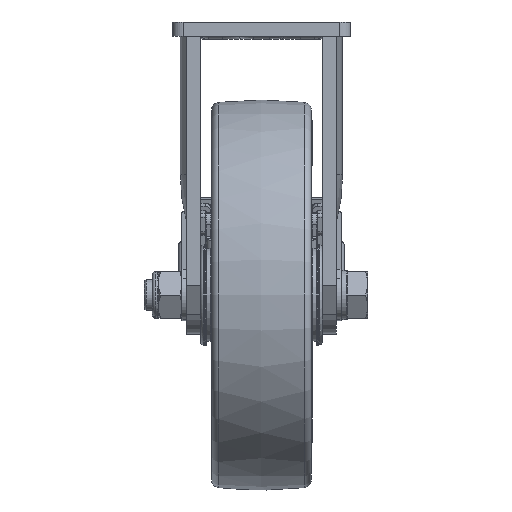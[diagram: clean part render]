
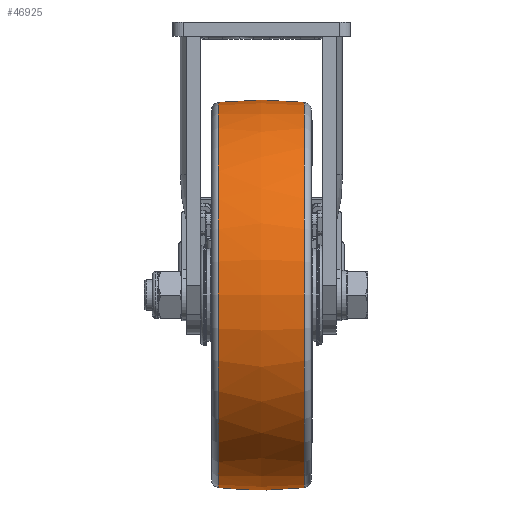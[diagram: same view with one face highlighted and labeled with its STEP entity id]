
A CAD part, left-side view. The second image highlights one B-rep face of the part: STEP entity #46925.
In plain terms, the highlighted free-form (B-spline) face has degree [2, 2] with [3, 9] control points.
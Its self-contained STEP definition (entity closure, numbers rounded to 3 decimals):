
#281=(
BOUNDED_CURVE()
B_SPLINE_CURVE(2,(#68240,#68241,#68242),.UNSPECIFIED.,.F.,.F.)
B_SPLINE_CURVE_WITH_KNOTS((3,3),(-0.11,0.11),
 .UNSPECIFIED.)
CURVE()
GEOMETRIC_REPRESENTATION_ITEM()
RATIONAL_B_SPLINE_CURVE((1.,0.994,1.))
REPRESENTATION_ITEM('')
);
#330=(
BOUNDED_SURFACE()
B_SPLINE_SURFACE(2,2,((#68209,#68210,#68211,#68212,#68213,#68214,#68215,
#68216,#68217),(#68218,#68219,#68220,#68221,#68222,#68223,#68224,#68225,
#68226),(#68227,#68228,#68229,#68230,#68231,#68232,#68233,#68234,#68235)),
 .UNSPECIFIED.,.F.,.T.,.F.)
B_SPLINE_SURFACE_WITH_KNOTS((3,3),(3,2,2,2,3),(-0.11,0.11),
(-3.142,-1.571,0.,1.571,3.142),
 .UNSPECIFIED.)
GEOMETRIC_REPRESENTATION_ITEM()
RATIONAL_B_SPLINE_SURFACE(((1.,0.707,1.,0.707,1.,
0.707,1.,0.707,1.),(0.994,0.703,
0.994,0.703,0.994,0.703,
0.994,0.703,0.994),(1.,0.707,
1.,0.707,1.,0.707,1.,0.707,1.)))
REPRESENTATION_ITEM('')
SURFACE()
);
#11620=FACE_OUTER_BOUND('',#14429,.T.);
#14429=EDGE_LOOP('',(#32281,#32282,#32283,#32284,#32285,#32286));
#17043=CIRCLE('',#49540,12.348);
#17044=CIRCLE('',#49541,12.348);
#17046=CIRCLE('',#49543,12.348);
#17047=CIRCLE('',#49544,12.348);
#19515=VERTEX_POINT('',#68203);
#19516=VERTEX_POINT('',#68204);
#19518=VERTEX_POINT('',#68236);
#19519=VERTEX_POINT('',#68237);
#24372=EDGE_CURVE('',#19515,#19516,#17043,.T.);
#24373=EDGE_CURVE('',#19516,#19515,#17044,.T.);
#24375=EDGE_CURVE('',#19518,#19519,#17046,.T.);
#24376=EDGE_CURVE('',#19519,#19518,#17047,.T.);
#24377=EDGE_CURVE('',#19519,#19516,#281,.T.);
#32281=ORIENTED_EDGE('',*,*,#24375,.F.);
#32282=ORIENTED_EDGE('',*,*,#24376,.F.);
#32283=ORIENTED_EDGE('',*,*,#24377,.T.);
#32284=ORIENTED_EDGE('',*,*,#24373,.T.);
#32285=ORIENTED_EDGE('',*,*,#24372,.T.);
#32286=ORIENTED_EDGE('',*,*,#24377,.F.);
#46925=ADVANCED_FACE('',(#11620),#330,.F.);
#49540=AXIS2_PLACEMENT_3D('',#68205,#54411,#54412);
#49541=AXIS2_PLACEMENT_3D('',#68206,#54413,#54414);
#49543=AXIS2_PLACEMENT_3D('',#68238,#54417,#54418);
#49544=AXIS2_PLACEMENT_3D('',#68239,#54419,#54420);
#54411=DIRECTION('center_axis',(0.,-1.,0.));
#54412=DIRECTION('ref_axis',(0.,0.,
1.));
#54413=DIRECTION('center_axis',(0.,-1.,0.));
#54414=DIRECTION('ref_axis',(0.,0.,
1.));
#54417=DIRECTION('center_axis',(0.,-1.,0.));
#54418=DIRECTION('ref_axis',(0.,0.,
1.));
#54419=DIRECTION('center_axis',(0.,-1.,0.));
#54420=DIRECTION('ref_axis',(0.,0.,
1.));
#68203=CARTESIAN_POINT('',(-12.348,2.755,-17.05));
#68204=CARTESIAN_POINT('',(0.,2.755,-29.398));
#68205=CARTESIAN_POINT('Origin',(0.,2.755,-17.05));
#68206=CARTESIAN_POINT('Origin',(0.,2.755,-17.05));
#68209=CARTESIAN_POINT('Ctrl Pts',(0.,2.755,
-29.398));
#68210=CARTESIAN_POINT('Ctrl Pts',(12.348,2.755,-29.398));
#68211=CARTESIAN_POINT('Ctrl Pts',(12.348,2.755,-17.05));
#68212=CARTESIAN_POINT('Ctrl Pts',(12.348,2.755,-4.702));
#68213=CARTESIAN_POINT('Ctrl Pts',(0.,2.755,
-4.702));
#68214=CARTESIAN_POINT('Ctrl Pts',(-12.348,2.755,-4.702));
#68215=CARTESIAN_POINT('Ctrl Pts',(-12.348,2.755,-17.05));
#68216=CARTESIAN_POINT('Ctrl Pts',(-12.348,2.755,-29.398));
#68217=CARTESIAN_POINT('Ctrl Pts',(0.,2.755,
-29.398));
#68218=CARTESIAN_POINT('Ctrl Pts',(0.,0.,
-29.703));
#68219=CARTESIAN_POINT('Ctrl Pts',(12.653,0.,
-29.703));
#68220=CARTESIAN_POINT('Ctrl Pts',(12.653,0.,
-17.05));
#68221=CARTESIAN_POINT('Ctrl Pts',(12.653,0.,
-4.397));
#68222=CARTESIAN_POINT('Ctrl Pts',(0.,0.,
-4.397));
#68223=CARTESIAN_POINT('Ctrl Pts',(-12.653,0.,
-4.397));
#68224=CARTESIAN_POINT('Ctrl Pts',(-12.653,0.,
-17.05));
#68225=CARTESIAN_POINT('Ctrl Pts',(-12.653,0.,
-29.703));
#68226=CARTESIAN_POINT('Ctrl Pts',(0.,0.,
-29.703));
#68227=CARTESIAN_POINT('Ctrl Pts',(0.,-2.755,
-29.398));
#68228=CARTESIAN_POINT('Ctrl Pts',(12.348,-2.755,-29.398));
#68229=CARTESIAN_POINT('Ctrl Pts',(12.348,-2.755,-17.05));
#68230=CARTESIAN_POINT('Ctrl Pts',(12.348,-2.755,-4.702));
#68231=CARTESIAN_POINT('Ctrl Pts',(0.,-2.755,
-4.702));
#68232=CARTESIAN_POINT('Ctrl Pts',(-12.348,-2.755,-4.702));
#68233=CARTESIAN_POINT('Ctrl Pts',(-12.348,-2.755,-17.05));
#68234=CARTESIAN_POINT('Ctrl Pts',(-12.348,-2.755,-29.398));
#68235=CARTESIAN_POINT('Ctrl Pts',(0.,-2.755,
-29.398));
#68236=CARTESIAN_POINT('',(-12.348,-2.755,-17.05));
#68237=CARTESIAN_POINT('',(0.,-2.755,-29.398));
#68238=CARTESIAN_POINT('Origin',(0.,-2.755,
-17.05));
#68239=CARTESIAN_POINT('Origin',(0.,-2.755,
-17.05));
#68240=CARTESIAN_POINT('Ctrl Pts',(0.,-2.755,
-29.398));
#68241=CARTESIAN_POINT('Ctrl Pts',(0.,0.,
-29.703));
#68242=CARTESIAN_POINT('Ctrl Pts',(0.,2.755,
-29.398));
